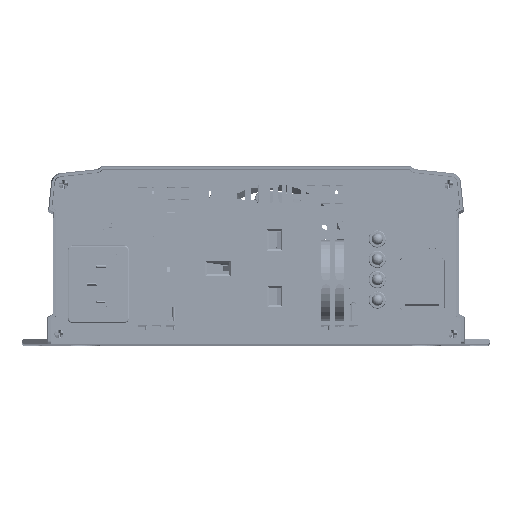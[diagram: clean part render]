
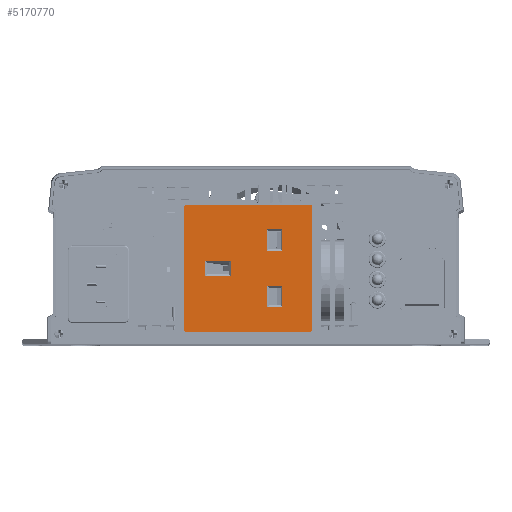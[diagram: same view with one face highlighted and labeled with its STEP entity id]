
A CAD part, top view. The second image highlights one B-rep face of the part: STEP entity #5170770.
In plain terms, the highlighted planar face has unit normal (0, 0, 1).
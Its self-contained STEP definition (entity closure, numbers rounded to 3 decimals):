
#5168800=CARTESIAN_POINT('',(50.,-13.578,6.4));
#5168810=VERTEX_POINT('',#5168800);
#5168890=CARTESIAN_POINT('',(50.,-62.578,6.4));
#5168900=VERTEX_POINT('',#5168890);
#5168930=CARTESIAN_POINT('',(50.,-13.578,6.4));
#5168940=DIRECTION('',(0.,-1.,0.));
#5168950=VECTOR('',#5168940,1.);
#5168960=LINE('',#5168930,#5168950);
#5168970=EDGE_CURVE('',#5168810,#5168900,#5168960,.T.);
#5169090=CARTESIAN_POINT('',(0.,-13.078,6.4));
#5169100=DIRECTION('',(0.,0.,1.));
#5169110=DIRECTION('',(1.,0.,0.));
#5169120=AXIS2_PLACEMENT_3D('',#5169090,#5169100,#5169110);
#5169130=PLANE('',#5169120);
#5169140=CARTESIAN_POINT('',(0.5,-62.578,6.4));
#5169150=DIRECTION('',(0.,0.,1.));
#5169160=DIRECTION('',(-1.,0.,0.));
#5169170=AXIS2_PLACEMENT_3D('',#5169140,#5169150,#5169160);
#5169180=CIRCLE('',#5169170,0.5);
#5169190=CARTESIAN_POINT('',(0.,-62.578,6.4
));
#5169200=VERTEX_POINT('',#5169190);
#5169210=CARTESIAN_POINT('',(0.5,-63.078,6.4));
#5169220=VERTEX_POINT('',#5169210);
#5169230=EDGE_CURVE('',#5169200,#5169220,#5169180,.T.);
#5169240=ORIENTED_EDGE('',*,*,#5169230,.T.);
#5169250=CARTESIAN_POINT('',(0.,-62.578,6.4
));
#5169260=DIRECTION('',(0.,1.,0.));
#5169270=VECTOR('',#5169260,1.);
#5169280=LINE('',#5169250,#5169270);
#5169290=CARTESIAN_POINT('',(0.,-13.578,6.4));
#5169300=VERTEX_POINT('',#5169290);
#5169310=EDGE_CURVE('',#5169200,#5169300,#5169280,.T.);
#5169320=ORIENTED_EDGE('',*,*,#5169310,.F.);
#5169330=CARTESIAN_POINT('',(0.5,-13.578,6.4));
#5169340=DIRECTION('',(0.,0.,1.));
#5169350=DIRECTION('',(0.,1.,0.));
#5169360=AXIS2_PLACEMENT_3D('',#5169330,#5169340,#5169350);
#5169370=CIRCLE('',#5169360,0.5);
#5169380=CARTESIAN_POINT('',(0.5,-13.078,6.4));
#5169390=VERTEX_POINT('',#5169380);
#5169400=EDGE_CURVE('',#5169390,#5169300,#5169370,.T.);
#5169410=ORIENTED_EDGE('',*,*,#5169400,.T.);
#5169420=CARTESIAN_POINT('',(0.5,-13.078,6.4));
#5169430=DIRECTION('',(1.,0.,0.));
#5169440=VECTOR('',#5169430,1.);
#5169450=LINE('',#5169420,#5169440);
#5169460=CARTESIAN_POINT('',(49.5,-13.078,6.4));
#5169470=VERTEX_POINT('',#5169460);
#5169480=EDGE_CURVE('',#5169390,#5169470,#5169450,.T.);
#5169490=ORIENTED_EDGE('',*,*,#5169480,.F.);
#5169500=CARTESIAN_POINT('',(49.5,-13.578,6.4));
#5169510=DIRECTION('',(0.,0.,1.));
#5169520=DIRECTION('',(1.,0.,0.));
#5169530=AXIS2_PLACEMENT_3D('',#5169500,#5169510,#5169520);
#5169540=CIRCLE('',#5169530,0.5);
#5169550=EDGE_CURVE('',#5168810,#5169470,#5169540,.T.);
#5169560=ORIENTED_EDGE('',*,*,#5169550,.T.);
#5169570=ORIENTED_EDGE('',*,*,#5168970,.F.);
#5169580=CARTESIAN_POINT('',(49.5,-62.578,6.4));
#5169590=DIRECTION('',(0.,0.,1.));
#5169600=DIRECTION('',(0.,-1.,0.));
#5169610=AXIS2_PLACEMENT_3D('',#5169580,#5169590,#5169600);
#5169620=CIRCLE('',#5169610,0.5);
#5169630=CARTESIAN_POINT('',(49.5,-63.078,6.4));
#5169640=VERTEX_POINT('',#5169630);
#5169650=EDGE_CURVE('',#5169640,#5168900,#5169620,.T.);
#5169660=ORIENTED_EDGE('',*,*,#5169650,.T.);
#5169670=CARTESIAN_POINT('',(49.5,-63.078,6.4));
#5169680=DIRECTION('',(-1.,0.,0.));
#5169690=VECTOR('',#5169680,1.);
#5169700=LINE('',#5169670,#5169690);
#5169710=EDGE_CURVE('',#5169640,#5169220,#5169700,.T.);
#5169720=ORIENTED_EDGE('',*,*,#5169710,.F.);
#5169730=EDGE_LOOP('',(#5169720,#5169660,#5169570,#5169560,#5169490,
#5169410,#5169320,#5169240));
#5169740=FACE_OUTER_BOUND('',#5169730,.T.);
#5169750=CARTESIAN_POINT('',(40.325,-51.603,6.4));
#5169760=DIRECTION('',(0.,1.,0.));
#5169770=VECTOR('',#5169760,1.);
#5169780=LINE('',#5169750,#5169770);
#5169790=CARTESIAN_POINT('',(40.325,-51.603,6.4));
#5169800=VERTEX_POINT('',#5169790);
#5169810=CARTESIAN_POINT('',(40.325,-45.553,6.4));
#5169820=VERTEX_POINT('',#5169810);
#5169830=EDGE_CURVE('',#5169800,#5169820,#5169780,.T.);
#5169840=ORIENTED_EDGE('',*,*,#5169830,.F.);
#5169850=CARTESIAN_POINT('',(40.325,-45.553,6.4));
#5169860=DIRECTION('',(-1.,0.,0.));
#5169870=VECTOR('',#5169860,1.);
#5169880=LINE('',#5169850,#5169870);
#5169890=CARTESIAN_POINT('',(31.875,-45.553,6.4));
#5169900=VERTEX_POINT('',#5169890);
#5169910=EDGE_CURVE('',#5169820,#5169900,#5169880,.T.);
#5169920=ORIENTED_EDGE('',*,*,#5169910,.F.);
#5169930=CARTESIAN_POINT('',(31.875,-45.553,6.4));
#5169940=DIRECTION('',(0.,-1.,0.));
#5169950=VECTOR('',#5169940,1.);
#5169960=LINE('',#5169930,#5169950);
#5169970=CARTESIAN_POINT('',(31.875,-51.603,6.4));
#5169980=VERTEX_POINT('',#5169970);
#5169990=EDGE_CURVE('',#5169900,#5169980,#5169960,.T.);
#5170000=ORIENTED_EDGE('',*,*,#5169990,.F.);
#5170010=CARTESIAN_POINT('',(31.875,-51.603,6.4));
#5170020=DIRECTION('',(1.,0.,0.));
#5170030=VECTOR('',#5170020,1.);
#5170040=LINE('',#5170010,#5170030);
#5170050=EDGE_CURVE('',#5169980,#5169800,#5170040,.T.);
#5170060=ORIENTED_EDGE('',*,*,#5170050,.F.);
#5170070=EDGE_LOOP('',(#5170060,#5170000,#5169920,#5169840));
#5170080=FACE_BOUND('',#5170070,.T.);
#5170090=CARTESIAN_POINT('',(18.125,-51.603,6.4));
#5170100=DIRECTION('',(0.,1.,0.));
#5170110=VECTOR('',#5170100,1.);
#5170120=LINE('',#5170090,#5170110);
#5170130=CARTESIAN_POINT('',(18.125,-51.603,6.4));
#5170140=VERTEX_POINT('',#5170130);
#5170150=CARTESIAN_POINT('',(18.125,-45.553,6.4));
#5170160=VERTEX_POINT('',#5170150);
#5170170=EDGE_CURVE('',#5170140,#5170160,#5170120,.T.);
#5170180=ORIENTED_EDGE('',*,*,#5170170,.F.);
#5170190=CARTESIAN_POINT('',(18.125,-45.553,6.4));
#5170200=DIRECTION('',(-1.,0.,0.));
#5170210=VECTOR('',#5170200,1.);
#5170220=LINE('',#5170190,#5170210);
#5170230=CARTESIAN_POINT('',(9.675,-45.553,6.4));
#5170240=VERTEX_POINT('',#5170230);
#5170250=EDGE_CURVE('',#5170160,#5170240,#5170220,.T.);
#5170260=ORIENTED_EDGE('',*,*,#5170250,.F.);
#5170270=CARTESIAN_POINT('',(9.675,-45.553,6.4));
#5170280=DIRECTION('',(0.,-1.,0.));
#5170290=VECTOR('',#5170280,1.);
#5170300=LINE('',#5170270,#5170290);
#5170310=CARTESIAN_POINT('',(9.675,-51.603,6.4));
#5170320=VERTEX_POINT('',#5170310);
#5170330=EDGE_CURVE('',#5170240,#5170320,#5170300,.T.);
#5170340=ORIENTED_EDGE('',*,*,#5170330,.F.);
#5170350=CARTESIAN_POINT('',(9.675,-51.603,6.4));
#5170360=DIRECTION('',(1.,0.,0.));
#5170370=VECTOR('',#5170360,1.);
#5170380=LINE('',#5170350,#5170370);
#5170390=EDGE_CURVE('',#5170320,#5170140,#5170380,.T.);
#5170400=ORIENTED_EDGE('',*,*,#5170390,.F.);
#5170410=EDGE_LOOP('',(#5170400,#5170340,#5170260,#5170180));
#5170420=FACE_BOUND('',#5170410,.T.);
#5170430=CARTESIAN_POINT('',(28.025,-31.328,6.4));
#5170440=DIRECTION('',(0.,1.,0.));
#5170450=VECTOR('',#5170440,1.);
#5170460=LINE('',#5170430,#5170450);
#5170470=CARTESIAN_POINT('',(28.025,-31.328,6.4));
#5170480=VERTEX_POINT('',#5170470);
#5170490=CARTESIAN_POINT('',(28.025,-21.328,6.4));
#5170500=VERTEX_POINT('',#5170490);
#5170510=EDGE_CURVE('',#5170480,#5170500,#5170460,.T.);
#5170520=ORIENTED_EDGE('',*,*,#5170510,.F.);
#5170530=CARTESIAN_POINT('',(28.025,-21.328,6.4));
#5170540=DIRECTION('',(-1.,0.,0.));
#5170550=VECTOR('',#5170540,1.);
#5170560=LINE('',#5170530,#5170550);
#5170570=CARTESIAN_POINT('',(21.975,-21.328,6.4));
#5170580=VERTEX_POINT('',#5170570);
#5170590=EDGE_CURVE('',#5170500,#5170580,#5170560,.T.);
#5170600=ORIENTED_EDGE('',*,*,#5170590,.F.);
#5170610=CARTESIAN_POINT('',(21.975,-21.328,6.4));
#5170620=DIRECTION('',(0.,-1.,0.));
#5170630=VECTOR('',#5170620,1.);
#5170640=LINE('',#5170610,#5170630);
#5170650=CARTESIAN_POINT('',(21.975,-31.328,6.4));
#5170660=VERTEX_POINT('',#5170650);
#5170670=EDGE_CURVE('',#5170580,#5170660,#5170640,.T.);
#5170680=ORIENTED_EDGE('',*,*,#5170670,.F.);
#5170690=CARTESIAN_POINT('',(21.975,-31.328,6.4));
#5170700=DIRECTION('',(1.,0.,0.));
#5170710=VECTOR('',#5170700,1.);
#5170720=LINE('',#5170690,#5170710);
#5170730=EDGE_CURVE('',#5170660,#5170480,#5170720,.T.);
#5170740=ORIENTED_EDGE('',*,*,#5170730,.F.);
#5170750=EDGE_LOOP('',(#5170740,#5170680,#5170600,#5170520));
#5170760=FACE_BOUND('',#5170750,.T.);
#5170770=ADVANCED_FACE('',(#5169740,#5170080,#5170420,#5170760),#5169130
,.T.);
